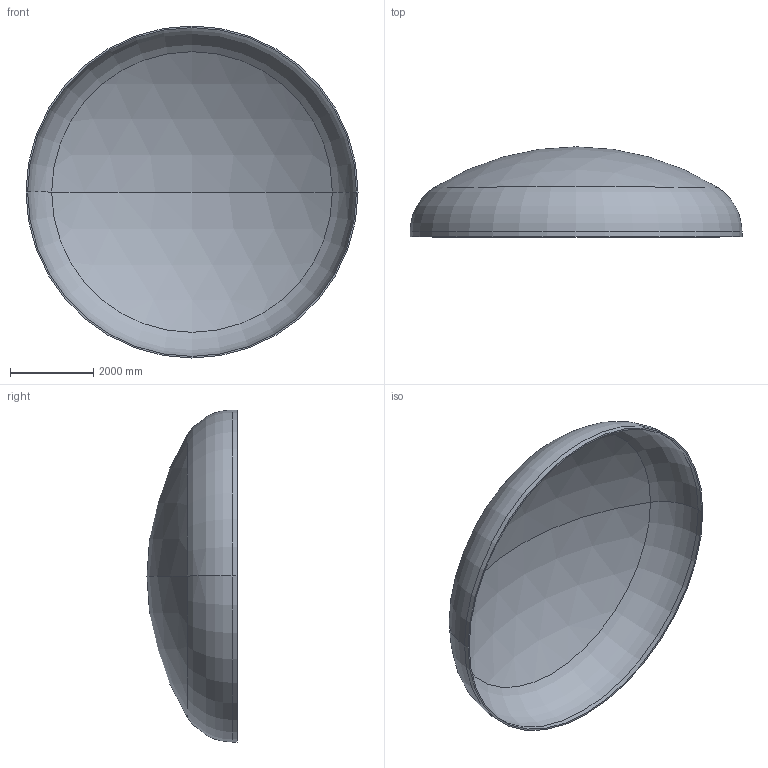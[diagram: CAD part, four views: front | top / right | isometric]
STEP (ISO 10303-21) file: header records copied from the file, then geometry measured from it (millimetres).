
FILE_DESCRIPTION (( 'STEP AP203' ), '1' );
FILE_NAME ('DIN 28013 Korbbogenform_-_Boden DIN 28013 - 8000 x 120 - I - s=38.step', '2016-07-04T11:01:06', ( '' ), ( '' ), 'SwSTEP 2.0', 'SolidWorks 2013', '' );
FILE_SCHEMA (( 'CONFIG_CONTROL_DESIGN' ));
Length unit declared in the file: millimetre
Products named in the file (1): DIN 28013 Korbbogenform_-_Boden DIN 28013 - 8000 x 120 - I - s=38
Bounding box: 8000 x 2168.8 x 8000 mm (x, y, z)
Volume: 2742216941.1 mm3; surface area: 145280682.1 mm2
Topology: 1 solids, 1 shells, 13 faces, 24 edges, 14 vertices
Faces by surface type: torus 4, cylinder 4, sphere 4, plane 1
Entity records: 407 total; most frequent: DIRECTION 72, CARTESIAN_POINT 52, ORIENTED_EDGE 48, AXIS2_PLACEMENT_3D 34, EDGE_CURVE 24, CIRCLE 20, VERTEX_POINT 14, EDGE_LOOP 14
